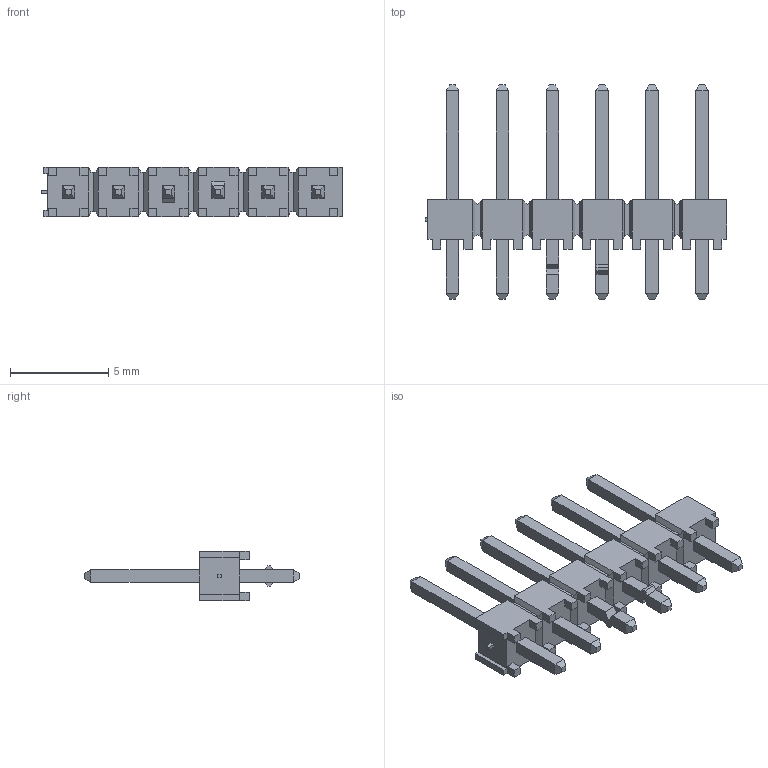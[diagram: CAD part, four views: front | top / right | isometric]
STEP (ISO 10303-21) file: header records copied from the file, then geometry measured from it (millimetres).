
FILE_DESCRIPTION(('STEP AP242'),'1');
FILE_NAME('strip_tsw-106-07-s-s-ll.stp','2022-05-13T12:14:29',('TraceParts'),('TraceParts S.A.'),'Spatial InterOp 3D',' ',' ');
FILE_SCHEMA(('AP242_MANAGED_MODEL_BASED_3D_ENGINEERING_MIM_LF {1 0 10303 442 1 1 4}'));
Length unit declared in the file: millimetre
Products named in the file (1): strip_tsw-106-07-s-s-ll
Bounding box: 15.37 x 10.92 x 2.54 mm (x, y, z)
Volume: 97.6 mm3; surface area: 309.1 mm2
Topology: 1 solids, 1 shells, 303 faces, 776 edges, 488 vertices
Faces by surface type: plane 303
Entity records: 11306 total; most frequent: CARTESIAN_POINT 1568, ORIENTED_EDGE 1552, DIRECTION 1384, EDGE_CURVE 776, LINE 776, VECTOR 776, VERTEX_POINT 488, EDGE_LOOP 316
